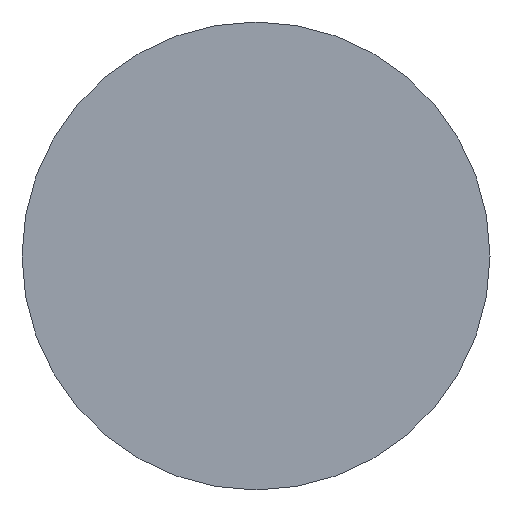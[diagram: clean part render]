
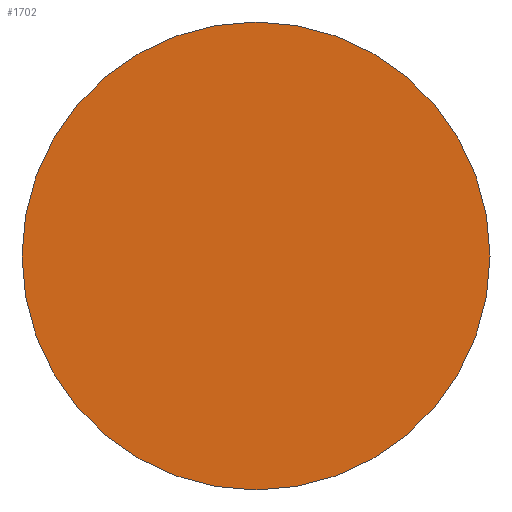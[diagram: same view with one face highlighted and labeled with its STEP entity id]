
A CAD part, front view. The second image highlights one B-rep face of the part: STEP entity #1702.
In plain terms, the highlighted planar face has unit normal (0, -1, 0).
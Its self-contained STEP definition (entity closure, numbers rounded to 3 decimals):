
#75 = AXIS2_PLACEMENT_3D ( 'NONE', #2143, #3419, #3504 ) ;
#119 = ORIENTED_EDGE ( 'NONE', *, *, #797, .T. ) ;
#224 = PLANE ( 'NONE',  #75 ) ;
#417 = EDGE_LOOP ( 'NONE', ( #119, #1276 ) ) ;
#753 = VERTEX_POINT ( 'NONE', #962 ) ;
#797 = EDGE_CURVE ( 'NONE', #1671, #753, #2885, .T. ) ;
#798 = CARTESIAN_POINT ( 'NONE',  ( 0., -30., 0. ) ) ;
#962 = CARTESIAN_POINT ( 'NONE',  ( -41., -30., 0. ) ) ;
#1021 = DIRECTION ( 'NONE',  ( 0., -1., 0. ) ) ;
#1174 = AXIS2_PLACEMENT_3D ( 'NONE', #798, #2103, #4184 ) ;
#1276 = ORIENTED_EDGE ( 'NONE', *, *, #1756, .T. ) ;
#1671 = VERTEX_POINT ( 'NONE', #2427 ) ;
#1702 = ADVANCED_FACE ( 'NONE', ( #3758 ), #224, .T. ) ;
#1756 = EDGE_CURVE ( 'NONE', #753, #1671, #3582, .T. ) ;
#2103 = DIRECTION ( 'NONE',  ( 0., -1., 0. ) ) ;
#2143 = CARTESIAN_POINT ( 'NONE',  ( 41., -30., 0. ) ) ;
#2285 = CARTESIAN_POINT ( 'NONE',  ( 0., -30., 0. ) ) ;
#2427 = CARTESIAN_POINT ( 'NONE',  ( 41., -30., 0. ) ) ;
#2885 = CIRCLE ( 'NONE', #3299, 41. ) ;
#3299 = AXIS2_PLACEMENT_3D ( 'NONE', #2285, #1021, #4238 ) ;
#3419 = DIRECTION ( 'NONE',  ( 0., -1., 0. ) ) ;
#3504 = DIRECTION ( 'NONE',  ( 1., 0., 0. ) ) ;
#3582 = CIRCLE ( 'NONE', #1174, 41. ) ;
#3758 = FACE_OUTER_BOUND ( 'NONE', #417, .T. ) ;
#4184 = DIRECTION ( 'NONE',  ( 1., 0., 0. ) ) ;
#4238 = DIRECTION ( 'NONE',  ( 1., 0., 0. ) ) ;
